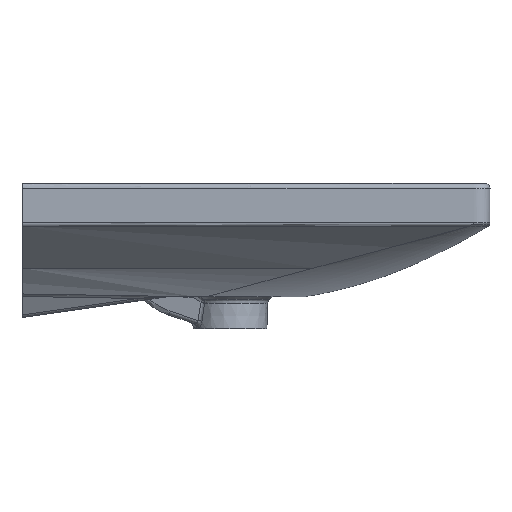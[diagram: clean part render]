
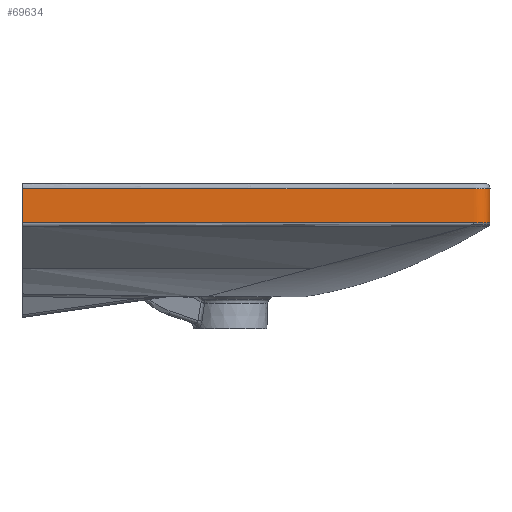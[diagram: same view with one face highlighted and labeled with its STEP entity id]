
A CAD part, left-side view. The second image highlights one B-rep face of the part: STEP entity #69634.
In plain terms, the highlighted free-form (B-spline) face has degree [1, 2] with [2, 11] control points.
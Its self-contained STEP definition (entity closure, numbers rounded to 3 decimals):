
#356 = CARTESIAN_POINT ( 'NONE',  ( 3274.795, 2906.446, 130. ) ) ;
#4012 = DIRECTION ( 'NONE',  ( 0., 0., 1. ) ) ;
#4119 = CARTESIAN_POINT ( 'NONE',  ( 2626.694, 2681.569, 92.213 ) ) ;
#4264 = CARTESIAN_POINT ( 'NONE',  ( 2782.291, 2673.946, 125. ) ) ;
#4600 = VERTEX_POINT ( 'NONE', #63285 ) ;
#4830 = EDGE_CURVE ( 'NONE', #65569, #32454, #31488, .T. ) ;
#5576 = CARTESIAN_POINT ( 'NONE',  ( 2624.795, 3123.946, 130. ) ) ;
#5811 = CARTESIAN_POINT ( 'NONE',  ( 2624.795, 3123.946, 90. ) ) ;
#8656 = B_SPLINE_CURVE_WITH_KNOTS ( 'NONE', 3,
 ( #52883, #25802, #63755, #31252, #69227, #36729, #4119, #42204, #9590, #47670, #15071, #53128, #20557, #58548, #26037, #64000, #31478, #69451 ),
 .UNSPECIFIED., .F., .F.,
 ( 4, 2, 2, 2, 2, 2, 2, 2, 4 ),
 ( 0., 0.125, 0.25, 0.375, 0.5, 0.625, 0.75, 0.875, 1. ),
 .UNSPECIFIED. ) ;
#9590 = CARTESIAN_POINT ( 'NONE',  ( 2628.473, 2679.053, 92.213 ) ) ;
#11041 = CARTESIAN_POINT ( 'NONE',  ( 2624.795, 2906.446, 130. ) ) ;
#11282 = CARTESIAN_POINT ( 'NONE',  ( 2624.795, 2688.946, 90. ) ) ;
#11988 = DIRECTION ( 'NONE',  ( 0., 0., -1. ) ) ;
#12977 = EDGE_CURVE ( 'NONE', #23943, #35247, #54745, .T. ) ;
#15071 = CARTESIAN_POINT ( 'NONE',  ( 2630.745, 2676.941, 92.213 ) ) ;
#15220 = CARTESIAN_POINT ( 'NONE',  ( 2639.795, 2673.946, 125. ) ) ;
#16530 = CARTESIAN_POINT ( 'NONE',  ( 2624.795, 2688.946, 130. ) ) ;
#16735 = EDGE_CURVE ( 'NONE', #35247, #58062, #57627, .T. ) ;
#16763 = CARTESIAN_POINT ( 'NONE',  ( 2639.795, 2673.946, 90. ) ) ;
#16996 = CARTESIAN_POINT ( 'NONE',  ( 2924.787, 2673.946, 110. ) ) ;
#19722 = CARTESIAN_POINT ( 'NONE',  ( 2624.795, 2688.907, 92.213 ) ) ;
#20557 = CARTESIAN_POINT ( 'NONE',  ( 2633.362, 2675.359, 92.214 ) ) ;
#20714 = CARTESIAN_POINT ( 'NONE',  ( 2624.795, 2688.946, 125. ) ) ;
#21551 = ORIENTED_EDGE ( 'NONE', *, *, #69863, .F. ) ;
#22010 = CARTESIAN_POINT ( 'NONE',  ( 2639.795, 2673.946, 130. ) ) ;
#22242 = CARTESIAN_POINT ( 'NONE',  ( 3259.795, 2673.946, 90. ) ) ;
#23200 = ORIENTED_EDGE ( 'NONE', *, *, #52654, .T. ) ;
#23943 = VERTEX_POINT ( 'NONE', #37093 ) ;
#24091 = CARTESIAN_POINT ( 'NONE',  ( 2624.795, 2833.946, 92.213 ) ) ;
#25802 = CARTESIAN_POINT ( 'NONE',  ( 2624.797, 2688.024, 92.213 ) ) ;
#26037 = CARTESIAN_POINT ( 'NONE',  ( 2636.144, 2674.367, 92.214 ) ) ;
#26185 = CARTESIAN_POINT ( 'NONE',  ( 2624.795, 3123.946, 125. ) ) ;
#26525 = ORIENTED_EDGE ( 'NONE', *, *, #46729, .F. ) ;
#26798 = CARTESIAN_POINT ( 'NONE',  ( 2624.795, 2688.946, 92.213 ) ) ;
#27471 = CARTESIAN_POINT ( 'NONE',  ( 3259.795, 2673.946, 130. ) ) ;
#27708 = CARTESIAN_POINT ( 'NONE',  ( 3274.795, 2688.946, 90. ) ) ;
#28315 = ORIENTED_EDGE ( 'NONE', *, *, #12977, .T. ) ;
#28620 = EDGE_CURVE ( 'NONE', #58062, #65569, #8656, .T. ) ;
#29537 = CARTESIAN_POINT ( 'NONE',  ( 2624.795, 3123.946, 92.213 ) ) ;
#29988 = ORIENTED_EDGE ( 'NONE', *, *, #16735, .T. ) ;
#31008 = CARTESIAN_POINT ( 'NONE',  ( 2924.787, 2673.946, 92.214 ) ) ;
#31252 = CARTESIAN_POINT ( 'NONE',  ( 2625.226, 2685.254, 92.213 ) ) ;
#31478 = CARTESIAN_POINT ( 'NONE',  ( 2638.913, 2673.946, 92.214 ) ) ;
#31488 = B_SPLINE_CURVE_WITH_KNOTS ( 'NONE', 2,
 ( #42900, #37421, #31008 ),
 .UNSPECIFIED., .F., .F.,
 ( 3, 3 ),
 ( 0., 1. ),
 .UNSPECIFIED. ) ;
#31708 = CARTESIAN_POINT ( 'NONE',  ( 2624.795, 2688.907, 92.213 ) ) ;
#32417 = CARTESIAN_POINT ( 'NONE',  ( 2639.795, 2673.946, 92.214 ) ) ;
#32454 = VERTEX_POINT ( 'NONE', #51388 ) ;
#32932 = CARTESIAN_POINT ( 'NONE',  ( 3274.795, 2688.946, 130. ) ) ;
#33162 = CARTESIAN_POINT ( 'NONE',  ( 3274.795, 3123.946, 90. ) ) ;
#34682 = VECTOR ( 'NONE', #4012, 1000. ) ;
#34846 =( BOUNDED_CURVE ( )  B_SPLINE_CURVE ( 2, ( #60890, #4264, #15220, #53270, #20714, #58692, #26185 ),
 .UNSPECIFIED., .F., .T. ) 
 B_SPLINE_CURVE_WITH_KNOTS ( ( 3, 2, 2, 3 ),
 ( 0., 0.28, 0.303, 0.73 ),
 .UNSPECIFIED. ) 
 CURVE ( )  GEOMETRIC_REPRESENTATION_ITEM ( )  RATIONAL_B_SPLINE_CURVE ( ( 1., 1., 1., 0.707, 1., 1., 1. ) ) 
 REPRESENTATION_ITEM ( '' )  );
#35006 = CARTESIAN_POINT ( 'NONE',  ( 2624.795, 2688.946, 92.213 ) ) ;
#35043 = ORIENTED_EDGE ( 'NONE', *, *, #28620, .T. ) ;
#35247 = VERTEX_POINT ( 'NONE', #26798 ) ;
#36389 = LINE ( 'NONE', #69118, #34682 ) ;
#36729 = CARTESIAN_POINT ( 'NONE',  ( 2626.227, 2682.473, 92.213 ) ) ;
#36765 = ORIENTED_EDGE ( 'NONE', *, *, #4830, .T. ) ;
#37093 = CARTESIAN_POINT ( 'NONE',  ( 2624.795, 3123.946, 92.213 ) ) ;
#37421 = CARTESIAN_POINT ( 'NONE',  ( 2782.291, 2673.946, 92.214 ) ) ;
#38390 = CARTESIAN_POINT ( 'NONE',  ( 2624.795, 2978.946, 92.213 ) ) ;
#38414 = CARTESIAN_POINT ( 'NONE',  ( 3274.795, 3123.946, 130. ) ) ;
#41873 = EDGE_LOOP ( 'NONE', ( #21551, #23200, #26525, #28315, #29988, #35043, #36765 ) ) ;
#42204 = CARTESIAN_POINT ( 'NONE',  ( 2627.817, 2679.859, 92.213 ) ) ;
#42900 = CARTESIAN_POINT ( 'NONE',  ( 2639.795, 2673.946, 92.214 ) ) ;
#43896 = CARTESIAN_POINT ( 'NONE',  ( 2624.795, 2906.446, 90. ) ) ;
#44485 = VERTEX_POINT ( 'NONE', #52917 ) ;
#46729 = EDGE_CURVE ( 'NONE', #23943, #44485, #36389, .T. ) ;
#47670 = CARTESIAN_POINT ( 'NONE',  ( 2629.937, 2677.594, 92.213 ) ) ;
#49341 = CARTESIAN_POINT ( 'NONE',  ( 2624.795, 2673.946, 90. ) ) ;
#50078 =( BOUNDED_SURFACE ( )  B_SPLINE_SURFACE ( 1, 2, ( 
 ( #5576, #11041, #16530, #54560, #22010, #59995, #27471, #65439, #32932, #356, #38414 ),
 ( #5811, #43896, #11282, #49341, #16763, #54791, #22242, #60223, #27708, #65669, #33162 ) ),
 .UNSPECIFIED., .F., .F., .F. ) 
 B_SPLINE_SURFACE_WITH_KNOTS ( ( 2, 2 ),
 ( 3, 2, 2, 2, 2, 3 ),
 ( 0., 40. ),
 ( 0., 435., 458.562, 1078.562, 1102.124, 1537.124 ),
 .UNSPECIFIED. ) 
 GEOMETRIC_REPRESENTATION_ITEM ( )  RATIONAL_B_SPLINE_SURFACE ( (
 ( 1., 1., 1., 0.707, 1., 1., 1., 0.707, 1., 1., 1.),
 ( 1., 1., 1., 0.707, 1., 1., 1., 0.707, 1., 1., 1.) ) ) 
 REPRESENTATION_ITEM ( '' )  SURFACE ( )  );
#51388 = CARTESIAN_POINT ( 'NONE',  ( 2924.787, 2673.946, 92.214 ) ) ;
#51824 = CARTESIAN_POINT ( 'NONE',  ( 2624.795, 2688.946, 92.213 ) ) ;
#52654 = EDGE_CURVE ( 'NONE', #4600, #44485, #34846, .T. ) ;
#52883 = CARTESIAN_POINT ( 'NONE',  ( 2624.795, 2688.907, 92.213 ) ) ;
#52917 = CARTESIAN_POINT ( 'NONE',  ( 2624.795, 3123.946, 125. ) ) ;
#53128 = CARTESIAN_POINT ( 'NONE',  ( 2632.458, 2675.823, 92.214 ) ) ;
#53270 = CARTESIAN_POINT ( 'NONE',  ( 2624.795, 2673.946, 125. ) ) ;
#54560 = CARTESIAN_POINT ( 'NONE',  ( 2624.795, 2673.946, 130. ) ) ;
#54745 = B_SPLINE_CURVE_WITH_KNOTS ( 'NONE', 3,
 ( #29537, #38390, #24091, #35006 ),
 .UNSPECIFIED., .F., .F.,
 ( 4, 4 ),
 ( 0., 1. ),
 .UNSPECIFIED. ) ;
#54791 = CARTESIAN_POINT ( 'NONE',  ( 2949.795, 2673.946, 90. ) ) ;
#57354 = LINE ( 'NONE', #16996, #59059 ) ;
#57627 =( BOUNDED_CURVE ( )  B_SPLINE_CURVE ( 2, ( #51824, #62932, #19722 ),
 .UNSPECIFIED., .F., .F. ) 
 B_SPLINE_CURVE_WITH_KNOTS ( ( 3, 3 ),
 ( 0., 1. ),
 .UNSPECIFIED. ) 
 CURVE ( )  GEOMETRIC_REPRESENTATION_ITEM ( )  RATIONAL_B_SPLINE_CURVE ( ( 1., 0.999, 0.999 ) ) 
 REPRESENTATION_ITEM ( '' )  );
#58062 = VERTEX_POINT ( 'NONE', #31708 ) ;
#58548 = CARTESIAN_POINT ( 'NONE',  ( 2635.206, 2674.631, 92.214 ) ) ;
#58692 = CARTESIAN_POINT ( 'NONE',  ( 2624.795, 2906.446, 125. ) ) ;
#59059 = VECTOR ( 'NONE', #11988, 1000. ) ;
#59995 = CARTESIAN_POINT ( 'NONE',  ( 2949.795, 2673.946, 130. ) ) ;
#60223 = CARTESIAN_POINT ( 'NONE',  ( 3274.795, 2673.946, 90. ) ) ;
#60890 = CARTESIAN_POINT ( 'NONE',  ( 2924.787, 2673.946, 125. ) ) ;
#62932 = CARTESIAN_POINT ( 'NONE',  ( 2624.795, 2688.927, 92.213 ) ) ;
#63285 = CARTESIAN_POINT ( 'NONE',  ( 2924.787, 2673.946, 125. ) ) ;
#63755 = CARTESIAN_POINT ( 'NONE',  ( 2624.878, 2687.108, 92.213 ) ) ;
#64000 = CARTESIAN_POINT ( 'NONE',  ( 2637.998, 2674.024, 92.214 ) ) ;
#65439 = CARTESIAN_POINT ( 'NONE',  ( 3274.795, 2673.946, 130. ) ) ;
#65569 = VERTEX_POINT ( 'NONE', #32417 ) ;
#65669 = CARTESIAN_POINT ( 'NONE',  ( 3274.795, 2906.446, 90. ) ) ;
#65867 = FACE_OUTER_BOUND ( 'NONE', #41873, .T. ) ;
#69118 = CARTESIAN_POINT ( 'NONE',  ( 2624.795, 3123.946, 65. ) ) ;
#69227 = CARTESIAN_POINT ( 'NONE',  ( 2625.493, 2684.315, 92.213 ) ) ;
#69451 = CARTESIAN_POINT ( 'NONE',  ( 2639.795, 2673.946, 92.214 ) ) ;
#69634 = ADVANCED_FACE ( 'NONE', ( #65867 ), #50078, .T. ) ;
#69863 = EDGE_CURVE ( 'NONE', #4600, #32454, #57354, .T. ) ;
